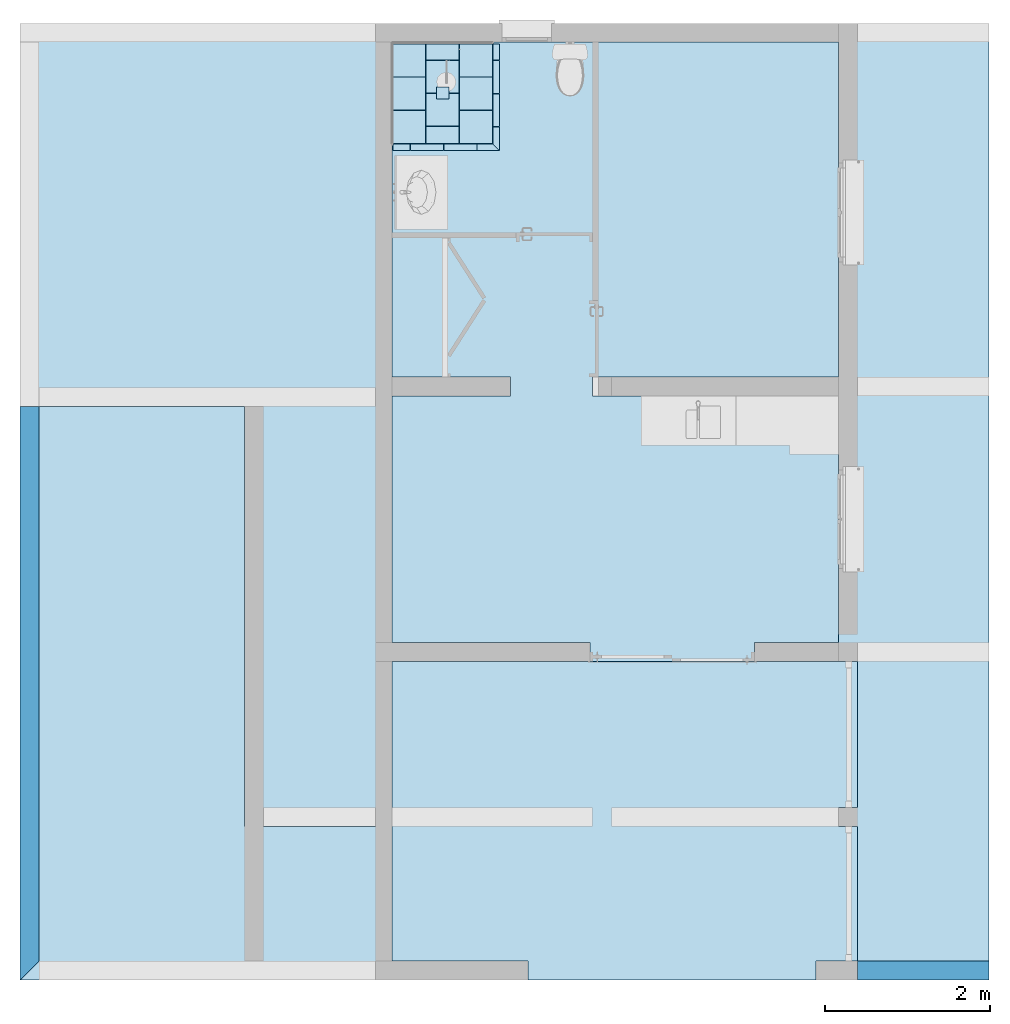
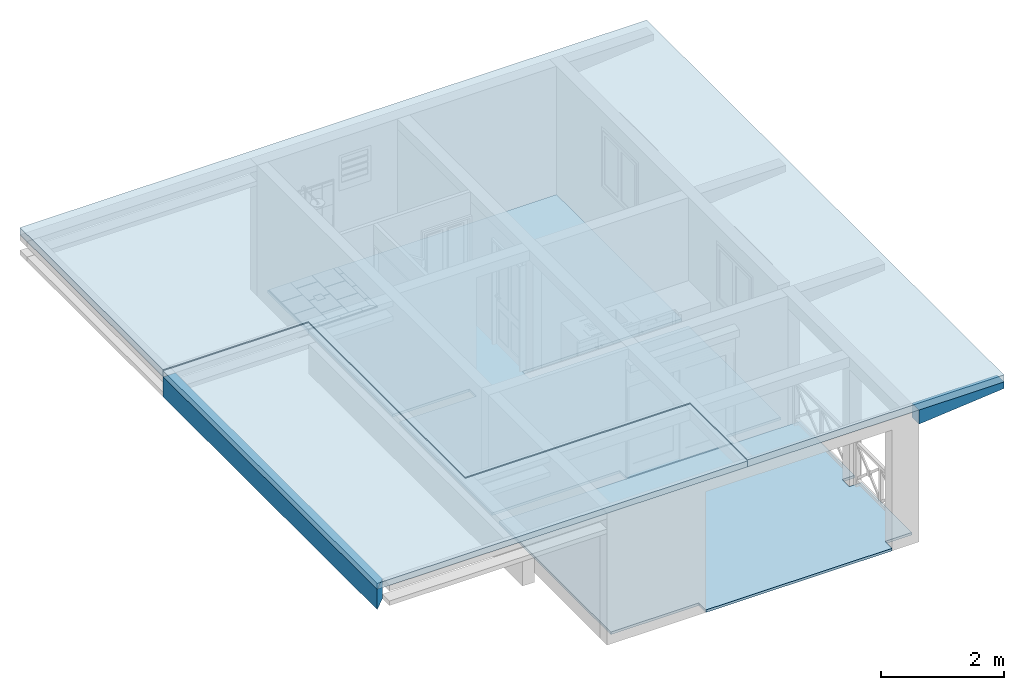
# One storey, part 1 of 13: 23 slabs, 2 walls.
"""IFC2X3 building model written with IfcOpenShell, lengths in metres."""

from ifc_helpers import new_model, entity, si_unit, converted_unit, derived_unit, money_unit, direction, frame, origin_with_axes, place, context, subcontext, project, spatial, polyline, outline, extrude, clip, halfspace, material, layer, layer_set, layer_usage, type_object, element, save


model = new_model("IFC2X3")

# Units and contexts
model_context = context("Model", 3, precision=1e-05, world=origin_with_axes(), true_north=direction((0.0, 1.0)))
body_context = subcontext(model_context, "Body", "Model", "MODEL_VIEW")
ifc_project = project(units=[si_unit("LENGTHUNIT", "METRE"), si_unit("AREAUNIT", "SQUARE_METRE"), si_unit("VOLUMEUNIT", "CUBIC_METRE"), converted_unit("PLANEANGLEUNIT", "DEGREE", entity("IfcPlaneAngleMeasure", 0.0174532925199), si_unit("PLANEANGLEUNIT", "RADIAN"), dimensions=[0, 0, 0, 0, 0, 0, 0]), si_unit("SOLIDANGLEUNIT", "STERADIAN"), money_unit("CHF"), converted_unit("TIMEUNIT", "Year", entity("IfcTimeMeasure", 31556926.0), si_unit("TIMEUNIT", "SECOND"), dimensions=[0, 0, 1, 0, 0, 0, 0]), si_unit("MASSUNIT", "GRAM", prefix="KILO"), si_unit("THERMODYNAMICTEMPERATUREUNIT", "DEGREE_CELSIUS"), si_unit("LUMINOUSINTENSITYUNIT", "LUMEN"), si_unit("ENERGYUNIT", "JOULE", prefix="MEGA"), derived_unit("THERMALCONDUCTANCEUNIT", [(si_unit("POWERUNIT", "WATT"), 1), (si_unit("LENGTHUNIT", "METRE"), -1), (si_unit("THERMODYNAMICTEMPERATUREUNIT", "KELVIN"), -1)]), derived_unit("SPECIFICHEATCAPACITYUNIT", [(si_unit("ENERGYUNIT", "JOULE"), 1), (si_unit("MASSUNIT", "GRAM", prefix="KILO"), -1), (si_unit("THERMODYNAMICTEMPERATUREUNIT", "KELVIN"), -1)]), derived_unit("MASSDENSITYUNIT", [(si_unit("MASSUNIT", "GRAM", prefix="KILO"), 1), (si_unit("VOLUMEUNIT", "CUBIC_METRE"), -1)])], contexts=[model_context])

# Site, building, storey
site_placement = place(None, origin_with_axes())
site = spatial("IfcSite", under=ifc_project, at=site_placement, Name="Site", CompositionType="ELEMENT")
building_placement = place(site_placement, origin_with_axes())
building = spatial("IfcBuilding", under=site, at=building_placement, Name="Bâtiment", CompositionType="ELEMENT")
storey_placement = place(building_placement, origin_with_axes())
storey = spatial("IfcBuildingStorey", under=building, at=storey_placement, Name="SOUS-SOL", CompositionType="ELEMENT", Elevation=0.0)

# Slabs
ifc_material_1 = material(Name="Hachure solide 2628782308")
ifc_layer_1 = layer(ifc_material_1, 0.12, ventilated="UNKNOWN")
ifc_layer_set_1 = layer_set([ifc_layer_1], Name="Hachure solide 2628782308 0.12")
ifc_layer_usage_1 = layer_usage(ifc_layer_set_1, "AXIS3", "NEGATIVE", 0.12)
slab_type_1 = type_object("IfcSlabType", Name="Hachure solide 2628782308 120", PredefinedType="FLOOR")
slab_1_placement = place(storey_placement, frame((84.7835190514, 14.1503410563, -0.07), z_axis=(0.0, 0.0, 1.0), x_axis=(1.0, 0.0, 0.0)))
element("IfcSlab", 1, at=slab_1_placement, inside=storey, type_object=slab_type_1, material=ifc_layer_usage_1, Name="Dalle-011", PredefinedType="FLOOR", context=body_context, shape_type="SweptSolid", body=[
    extrude(outline(polyline([(0.0, 0.0), (0.0, -6.97), (6.96, -6.97), (6.96, -5.10107445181), (2.73, -5.10107445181), (2.73, 0.0), (0.0, 0.0)])), frame((0.0, 0.0, -0.12), z_axis=(0.0, 0.0, 1.0), x_axis=(1.0, 0.0, 0.0)), (0.0, 0.0, 1.0), 0.12),
])
ifc_layer_2 = layer(ifc_material_1, 0.14, ventilated="UNKNOWN")
ifc_layer_set_2 = layer_set([ifc_layer_2], Name="Hachure solide 2628782308 0.14")
ifc_layer_usage_2 = layer_usage(ifc_layer_set_2, "AXIS3", "NEGATIVE", 0.14)
slab_type_2 = type_object("IfcSlabType", Name="Hachure solide 2628782308 140", PredefinedType="FLOOR")
slab_2_placement = place(storey_placement, frame((84.7835190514, 18.8103410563, -0.05), z_axis=(0.0, 0.0, 1.0), x_axis=(1.0, 0.0, 0.0)))
element("IfcSlab", 2, at=slab_2_placement, inside=storey, type_object=slab_type_2, material=ifc_layer_usage_2, Name="Dalle-010", PredefinedType="FLOOR", context=body_context, shape_type="SweptSolid", body=[
    extrude(outline(polyline([(0.0, 0.0), (0.0, -4.66), (2.73, -4.66), (2.73, -9.76107445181), (6.96, -9.76107445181), (6.96, -11.63), (11.78, -11.63), (11.78, 0.0), (0.0, 0.0)])), frame((0.0, 0.0, -0.14), z_axis=(0.0, 0.0, 1.0), x_axis=(1.0, 0.0, 0.0)), (0.0, 0.0, 1.0), 0.14),
])
ifc_material_2 = material(Name="Struct. - Chape")
ifc_layer_3 = layer(ifc_material_2, 0.05, ventilated="UNKNOWN")
ifc_layer_set_3 = layer_set([ifc_layer_3], Name="Struct. - Chape 0.05")
ifc_layer_usage_3 = layer_usage(ifc_layer_set_3, "AXIS3", "NEGATIVE", 0.05)
slab_type_3 = type_object("IfcSlabType", Name="Struct. - Chape 50", PredefinedType="FLOOR")
slab_3_placement = place(storey_placement, frame((89.3055190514, 11.0503410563, -2.76), z_axis=(0.0, 0.0, 1.0), x_axis=(1.0, 0.0, 0.0)))
element("IfcSlab", 3, at=slab_3_placement, inside=storey, type_object=slab_type_3, material=ifc_layer_usage_3, Name="Dalle-010", PredefinedType="FLOOR", context=body_context, shape_type="SweptSolid", body=[
    extrude(outline(polyline([(0.0, 0.0), (0.0, -3.64), (1.65601971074, -3.64), (1.65601971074, -3.87), (5.15601971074, -3.87), (5.15601971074, -3.64), (5.66, -3.64), (5.66, -2.00107445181), (5.43, -2.00107445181), (5.43, -1.77107445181), (5.66, -1.77107445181), (5.66, 0.0), (0.0, 0.0)])), frame((0.0, 0.0, -0.05), z_axis=(0.0, 0.0, 1.0), x_axis=(1.0, 0.0, 0.0)), (0.0, 0.0, 1.0), 0.05),
])
ifc_layer_usage_4 = layer_usage(ifc_layer_set_3, "AXIS3", "NEGATIVE", 0.05)
slab_4_placement = place(storey_placement, frame((89.3055190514, 11.2803410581, -2.74), z_axis=(0.0, 0.0, 1.0), x_axis=(1.0, 0.0, 0.0)))
element("IfcSlab", 4, at=slab_4_placement, inside=storey, type_object=slab_type_3, material=ifc_layer_usage_4, Name="Dalle-011", PredefinedType="FLOOR", context=body_context, shape_type="SweptSolid", body=[
    extrude(outline(polyline([(0.0, 0.0), (2.40601973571, 0.0), (2.40601973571, -0.230000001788), (4.40601968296, -0.230000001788), (4.40601968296, 0.0), (5.4299999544, 0.0), (5.4299999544, 3.00000003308), (2.438, 2.99999999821), (2.438, 3.22999999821), (5.4299999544, 3.23000003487), (5.4299999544, 7.29999999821), (0.0, 7.29999999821), (0.0, 3.23000003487), (1.438, 3.22999999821), (1.438, 2.99999999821), (0.0, 3.00000003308), (0.0, 0.0)])), frame((0.0, 0.0, -0.05), z_axis=(0.0, 0.0, 1.0), x_axis=(1.0, 0.0, 0.0)), (0.0, 0.0, 1.0), 0.05),
])
ifc_material_3 = material(Name="Sans Trame* 2635859640")
ifc_layer_4 = layer(ifc_material_3, 0.02, ventilated="UNKNOWN")
ifc_layer_set_4 = layer_set([ifc_layer_4], Name="Sans Trame* 2635859640 0.02")
ifc_layer_usage_5 = layer_usage(ifc_layer_set_4, "AXIS3", "NEGATIVE", 0.02)
slab_type_4 = type_object("IfcSlabType", Name="Sans Trame* 2635859640 20", PredefinedType="FLOOR")
slab_5_placement = place(storey_placement, frame((89.7155190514, 18.1603410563, -2.718), z_axis=(0.0, 0.0, 1.0), x_axis=(1.0, 0.0, 0.0)))
element("IfcSlab", 5, at=slab_5_placement, inside=storey, type_object=slab_type_4, material=ifc_layer_usage_5, Name="Dalle-019", PredefinedType="FLOOR", context=body_context, shape_type="SweptSolid", body=[
    extrude(outline(polyline([(0.0, 0.0), (0.0, 0.4), (-0.4, 0.4), (-0.4, 0.0), (0.0, 0.0)])), frame((0.0, 0.0, -0.02), z_axis=(0.0, 0.0, 1.0), x_axis=(1.0, 0.0, 0.0)), (0.0, 0.0, 1.0), 0.02),
])
ifc_layer_usage_6 = layer_usage(ifc_layer_set_4, "AXIS3", "NEGATIVE", 0.02)
slab_6_placement = place(storey_placement, frame((90.1255190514, 18.1603410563, -2.718), z_axis=(0.0, 0.0, 1.0), x_axis=(1.0, 0.0, 0.0)))
element("IfcSlab", 6, at=slab_6_placement, inside=storey, type_object=slab_type_4, material=ifc_layer_usage_6, Name="Dalle-019", PredefinedType="FLOOR", context=body_context, shape_type="SweptSolid", body=[
    extrude(outline(polyline([(0.0, 0.0), (0.4, 0.0), (0.4, 0.4), (0.0, 0.4), (0.0, 0.0)])), frame((0.0, 0.0, -0.02), z_axis=(0.0, 0.0, 1.0), x_axis=(1.0, 0.0, 0.0)), (0.0, 0.0, 1.0), 0.02),
])
ifc_layer_usage_7 = layer_usage(ifc_layer_set_4, "AXIS3", "NEGATIVE", 0.02)
slab_7_placement = place(storey_placement, frame((89.7155190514, 17.3503410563, -2.718), z_axis=(0.0, 0.0, 1.0), x_axis=(1.0, 0.0, 0.0)))
element("IfcSlab", 7, at=slab_7_placement, inside=storey, type_object=slab_type_4, material=ifc_layer_usage_7, Name="Dalle-019", PredefinedType="FLOOR", context=body_context, shape_type="SweptSolid", body=[
    extrude(outline(polyline([(0.0, 0.0), (0.0, 0.4), (-0.4, 0.4), (-0.4, 0.0), (0.0, 0.0)])), frame((0.0, 0.0, -0.02), z_axis=(0.0, 0.0, 1.0), x_axis=(1.0, 0.0, 0.0)), (0.0, 0.0, 1.0), 0.02),
])
ifc_layer_usage_8 = layer_usage(ifc_layer_set_4, "AXIS3", "NEGATIVE", 0.02)
slab_8_placement = place(storey_placement, frame((90.3361099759, 17.2653410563, -2.718), z_axis=(0.0, 0.0, 1.0), x_axis=(1.0, 0.0, 0.0)))
element("IfcSlab", 8, at=slab_8_placement, inside=storey, type_object=slab_type_4, material=ifc_layer_usage_8, Name="Dalle-019", PredefinedType="FLOOR", context=body_context, shape_type="SweptSolid", body=[
    extrude(outline(polyline([(0.0, 0.0), (0.0, 0.08), (-0.4, 0.08), (-0.4, 0.0), (0.0, 0.0)])), frame((0.0, 0.0, -0.02), z_axis=(0.0, 0.0, 1.0), x_axis=(1.0, 0.0, 0.0)), (0.0, 0.0, 1.0), 0.02),
])
ifc_layer_usage_9 = layer_usage(ifc_layer_set_4, "AXIS3", "NEGATIVE", 0.02)
slab_9_placement = place(storey_placement, frame((89.5261099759, 17.2653410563, -2.718), z_axis=(0.0, 0.0, 1.0), x_axis=(1.0, 0.0, 0.0)))
element("IfcSlab", 9, at=slab_9_placement, inside=storey, type_object=slab_type_4, material=ifc_layer_usage_9, Name="Dalle-019", PredefinedType="FLOOR", context=body_context, shape_type="SweptSolid", body=[
    extrude(outline(polyline([(0.0, 0.0), (0.0, 0.08), (-0.210590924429, 0.08), (-0.210590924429, 0.0), (0.0, 0.0)])), frame((0.0, 0.0, -0.02), z_axis=(0.0, 0.0, 1.0), x_axis=(1.0, 0.0, 0.0)), (0.0, 0.0, 1.0), 0.02),
])
ifc_layer_usage_10 = layer_usage(ifc_layer_set_4, "AXIS3", "NEGATIVE", 0.02)
slab_10_placement = place(storey_placement, frame((89.9955190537, 18.0328410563, -2.718), z_axis=(0.0, 0.0, 1.0), x_axis=(1.0, 0.0, 0.0)))
element("IfcSlab", 10, at=slab_10_placement, inside=storey, type_object=slab_type_4, material=ifc_layer_usage_10, Name="Dalle-019", PredefinedType="FLOOR", context=body_context, shape_type="SweptSolid", body=[
    extrude(outline(polyline([(0.0, 0.0), (-3.12923020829e-09, -0.07), (0.125, -0.07), (0.125, 0.325), (-0.275000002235, 0.325), (-0.275000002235, -0.07), (-0.149999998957, -0.07), (-0.15, 0.0), (0.0, 0.0)])), frame((0.0, 0.0, -0.02), z_axis=(0.0, 0.0, 1.0), x_axis=(1.0, 0.0, 0.0)), (0.0, 0.0, 1.0), 0.02),
])
ifc_layer_usage_11 = layer_usage(ifc_layer_set_4, "AXIS3", "NEGATIVE", 0.02)
slab_11_placement = place(storey_placement, frame((90.1205190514, 18.3628410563, -2.718), z_axis=(0.0, 0.0, 1.0), x_axis=(1.0, 0.0, 0.0)))
element("IfcSlab", 11, at=slab_11_placement, inside=storey, type_object=slab_type_4, material=ifc_layer_usage_11, Name="Dalle-019", PredefinedType="FLOOR", context=body_context, shape_type="SweptSolid", body=[
    extrude(outline(polyline([(0.0, 0.0), (0.0, 0.198), (-0.4, 0.1975), (-0.4, 0.0), (0.0, 0.0)])), frame((0.0, 0.0, -0.02), z_axis=(0.0, 0.0, 1.0), x_axis=(1.0, 0.0, 0.0)), (0.0, 0.0, 1.0), 0.02),
])
ifc_layer_usage_12 = layer_usage(ifc_layer_set_4, "AXIS3", "NEGATIVE", 0.02)
slab_12_placement = place(storey_placement, frame((89.7155190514, 17.7553410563, -2.718), z_axis=(0.0, 0.0, 1.0), x_axis=(1.0, 0.0, 0.0)))
element("IfcSlab", 12, at=slab_12_placement, inside=storey, type_object=slab_type_4, material=ifc_layer_usage_12, Name="Dalle-019", PredefinedType="FLOOR", context=body_context, shape_type="SweptSolid", body=[
    extrude(outline(polyline([(0.0, 0.0), (0.0, 0.4), (-0.4, 0.4), (-0.4, 0.0), (0.0, 0.0)])), frame((0.0, 0.0, -0.02), z_axis=(0.0, 0.0, 1.0), x_axis=(1.0, 0.0, 0.0)), (0.0, 0.0, 1.0), 0.02),
])
ifc_layer_usage_13 = layer_usage(ifc_layer_set_4, "AXIS3", "NEGATIVE", 0.02)
slab_13_placement = place(storey_placement, frame((90.1205190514, 17.3503410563, -2.718), z_axis=(0.0, 0.0, 1.0), x_axis=(1.0, 0.0, 0.0)))
element("IfcSlab", 13, at=slab_13_placement, inside=storey, type_object=slab_type_4, material=ifc_layer_usage_13, Name="Dalle-019", PredefinedType="FLOOR", context=body_context, shape_type="SweptSolid", body=[
    extrude(outline(polyline([(0.0, 0.0), (0.0, 0.208), (-0.4, 0.2075), (-0.4, 0.0), (0.0, 0.0)])), frame((0.0, 0.0, -0.02), z_axis=(0.0, 0.0, 1.0), x_axis=(1.0, 0.0, 0.0)), (0.0, 0.0, 1.0), 0.02),
])
ifc_layer_usage_14 = layer_usage(ifc_layer_set_4, "AXIS3", "NEGATIVE", 0.02)
slab_14_placement = place(storey_placement, frame((89.9311099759, 17.2653410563, -2.718), z_axis=(0.0, 0.0, 1.0), x_axis=(1.0, 0.0, 0.0)))
element("IfcSlab", 14, at=slab_14_placement, inside=storey, type_object=slab_type_4, material=ifc_layer_usage_14, Name="Dalle-019", PredefinedType="FLOOR", context=body_context, shape_type="SweptSolid", body=[
    extrude(outline(polyline([(0.0, 0.0), (0.0, 0.08), (-0.4, 0.08), (-0.4, 0.0), (0.0, 0.0)])), frame((0.0, 0.0, -0.02), z_axis=(0.0, 0.0, 1.0), x_axis=(1.0, 0.0, 0.0)), (0.0, 0.0, 1.0), 0.02),
])
ifc_layer_usage_15 = layer_usage(ifc_layer_set_4, "AXIS3", "NEGATIVE", 0.02)
slab_15_placement = place(storey_placement, frame((89.9955190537, 17.8878410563, -2.718), z_axis=(0.0, 0.0, 1.0), x_axis=(1.0, 0.0, 0.0)))
element("IfcSlab", 15, at=slab_15_placement, inside=storey, type_object=slab_type_4, material=ifc_layer_usage_15, Name="Dalle-019", PredefinedType="FLOOR", context=body_context, shape_type="SweptSolid", body=[
    extrude(outline(polyline([(0.0, 0.0), (-0.15, 0.0), (-0.149999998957, 0.07), (-0.275000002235, 0.07), (-0.275000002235, -0.325), (0.125, -0.325), (0.125, 0.07), (-3.12923020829e-09, 0.07), (0.0, 0.0)])), frame((0.0, 0.0, -0.02), z_axis=(0.0, 0.0, 1.0), x_axis=(1.0, 0.0, 0.0)), (0.0, 0.0, 1.0), 0.02),
])
ifc_layer_usage_16 = layer_usage(ifc_layer_set_4, "AXIS3", "NEGATIVE", 0.02)
slab_16_placement = place(storey_placement, frame((90.6105190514, 17.2653410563, -2.718), z_axis=(0.0, 0.0, 1.0), x_axis=(1.0, 0.0, 0.0)))
element("IfcSlab", 16, at=slab_16_placement, inside=storey, type_object=slab_type_4, material=ifc_layer_usage_16, Name="Dalle-019", PredefinedType="FLOOR", context=body_context, shape_type="SweptSolid", body=[
    extrude(outline(polyline([(0.0, 0.0), (-0.08, 0.08), (-0.269409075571, 0.08), (-0.269409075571, 0.0), (0.0, 0.0)])), frame((0.0, 0.0, -0.02), z_axis=(0.0, 0.0, 1.0), x_axis=(1.0, 0.0, 0.0)), (0.0, 0.0, 1.0), 0.02),
])
ifc_layer_usage_17 = layer_usage(ifc_layer_set_4, "AXIS3", "NEGATIVE", 0.02)
slab_17_placement = place(storey_placement, frame((90.6105190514, 17.9578410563, -2.718), z_axis=(0.0, 0.0, 1.0), x_axis=(1.0, 0.0, 0.0)))
element("IfcSlab", 17, at=slab_17_placement, inside=storey, type_object=slab_type_4, material=ifc_layer_usage_17, Name="Dalle-019", PredefinedType="FLOOR", context=body_context, shape_type="SweptSolid", body=[
    extrude(outline(polyline([(0.0, 0.0), (0.0, 0.4), (-0.0800000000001, 0.4), (-0.08, 0.0), (0.0, 0.0)])), frame((0.0, 0.0, -0.02), z_axis=(0.0, 0.0, 1.0), x_axis=(1.0, 0.0, 0.0)), (0.0, 0.0, 1.0), 0.02),
])
ifc_layer_usage_18 = layer_usage(ifc_layer_set_4, "AXIS3", "NEGATIVE", 0.02)
slab_18_placement = place(storey_placement, frame((90.6105190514, 18.3628410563, -2.718), z_axis=(0.0, 0.0, 1.0), x_axis=(1.0, 0.0, 0.0)))
element("IfcSlab", 18, at=slab_18_placement, inside=storey, type_object=slab_type_4, material=ifc_layer_usage_18, Name="Dalle-019", PredefinedType="FLOOR", context=body_context, shape_type="SweptSolid", body=[
    extrude(outline(polyline([(0.0, 0.0), (0.0, 0.1975), (-0.08, 0.19750249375), (-0.08, 0.0), (0.0, 0.0)])), frame((0.0, 0.0, -0.02), z_axis=(0.0, 0.0, 1.0), x_axis=(1.0, 0.0, 0.0)), (0.0, 0.0, 1.0), 0.02),
])
ifc_layer_usage_19 = layer_usage(ifc_layer_set_4, "AXIS3", "NEGATIVE", 0.02)
slab_19_placement = place(storey_placement, frame((90.6105190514, 17.5528410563, -2.718), z_axis=(0.0, 0.0, 1.0), x_axis=(1.0, 0.0, 0.0)))
element("IfcSlab", 19, at=slab_19_placement, inside=storey, type_object=slab_type_4, material=ifc_layer_usage_19, Name="Dalle-019", PredefinedType="FLOOR", context=body_context, shape_type="SweptSolid", body=[
    extrude(outline(polyline([(0.0, 0.0), (0.0, 0.4), (-0.08, 0.4), (-0.08, 0.0), (0.0, 0.0)])), frame((0.0, 0.0, -0.02), z_axis=(0.0, 0.0, 1.0), x_axis=(1.0, 0.0, 0.0)), (0.0, 0.0, 1.0), 0.02),
])
ifc_layer_usage_20 = layer_usage(ifc_layer_set_4, "AXIS3", "NEGATIVE", 0.02)
slab_20_placement = place(storey_placement, frame((90.6105190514, 17.2653410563, -2.718), z_axis=(0.0, 0.0, 1.0), x_axis=(1.0, 0.0, 0.0)))
element("IfcSlab", 20, at=slab_20_placement, inside=storey, type_object=slab_type_4, material=ifc_layer_usage_20, Name="Dalle-019", PredefinedType="FLOOR", context=body_context, shape_type="SweptSolid", body=[
    extrude(outline(polyline([(0.0, 0.0), (0.0, 0.2825), (-0.08, 0.2825), (-0.08, 0.08), (0.0, 0.0)])), frame((0.0, 0.0, -0.02), z_axis=(0.0, 0.0, 1.0), x_axis=(1.0, 0.0, 0.0)), (0.0, 0.0, 1.0), 0.02),
])
ifc_layer_usage_21 = layer_usage(ifc_layer_set_4, "AXIS3", "NEGATIVE", 0.02)
slab_21_placement = place(storey_placement, frame((90.1255190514, 17.3503410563, -2.718), z_axis=(0.0, 0.0, 1.0), x_axis=(1.0, 0.0, 0.0)))
element("IfcSlab", 21, at=slab_21_placement, inside=storey, type_object=slab_type_4, material=ifc_layer_usage_21, Name="Dalle-019", PredefinedType="FLOOR", context=body_context, shape_type="SweptSolid", body=[
    extrude(outline(polyline([(0.0, 0.0), (0.4, 0.0), (0.4, 0.4), (0.0, 0.4), (0.0, 0.0)])), frame((0.0, 0.0, -0.02), z_axis=(0.0, 0.0, 1.0), x_axis=(1.0, 0.0, 0.0)), (0.0, 0.0, 1.0), 0.02),
])
ifc_layer_usage_22 = layer_usage(ifc_layer_set_4, "AXIS3", "NEGATIVE", 0.02)
slab_22_placement = place(storey_placement, frame((89.9955190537, 17.8878410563, -2.718), z_axis=(0.0, 0.0, 1.0), x_axis=(1.0, 0.0, 0.0)))
element("IfcSlab", 22, at=slab_22_placement, inside=storey, type_object=slab_type_4, material=ifc_layer_usage_22, Name="Dalle-019", PredefinedType="FLOOR", context=body_context, shape_type="SweptSolid", body=[
    extrude(outline(polyline([(0.0, 0.0), (0.0, 0.145), (-0.15, 0.145), (-0.15, 0.0), (0.0, 0.0)])), frame((0.0, 0.0, -0.02), z_axis=(0.0, 0.0, 1.0), x_axis=(1.0, 0.0, 0.0)), (0.0, 0.0, 1.0), 0.02),
])
ifc_layer_usage_23 = layer_usage(ifc_layer_set_4, "AXIS3", "NEGATIVE", 0.02)
slab_23_placement = place(storey_placement, frame((90.1255190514, 17.7553410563, -2.718), z_axis=(0.0, 0.0, 1.0), x_axis=(1.0, 0.0, 0.0)))
element("IfcSlab", 23, at=slab_23_placement, inside=storey, type_object=slab_type_4, material=ifc_layer_usage_23, Name="Dalle-019", PredefinedType="FLOOR", context=body_context, shape_type="SweptSolid", body=[
    extrude(outline(polyline([(0.0, 0.0), (0.4, 0.0), (0.4, 0.4), (0.0, 0.4), (0.0, 0.0)])), frame((0.0, 0.0, -0.02), z_axis=(0.0, 0.0, 1.0), x_axis=(1.0, 0.0, 0.0)), (0.0, 0.0, 1.0), 0.02),
])

# Walls
ifc_layer_5 = layer(ifc_material_1, 0.23, ventilated="UNKNOWN")
ifc_layer_set_5 = layer_set([ifc_layer_5], Name="Hachure solide 2628782308 0.23")
ifc_layer_usage_24 = layer_usage(ifc_layer_set_5, "AXIS2", "POSITIVE", 0.0)
wall_type = type_object("IfcWallType", Name="Hachure solide 2628782308 230", PredefinedType="NOTDEFINED")
wall_1_placement = place(storey_placement, frame((94.9655190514, 7.18034105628, -0.49), z_axis=(0.0, 0.0, 1.0), x_axis=(1.0, 0.0, 0.0)))
element("IfcWallStandardCase", 24, at=wall_1_placement, inside=storey, type_object=wall_type, material=ifc_layer_usage_24, Name="MurExt-05", context=body_context, shape_type="Clipping", body=[
    clip(extrude(outline(polyline([(0.0, 0.0), (1.598, 0.0), (1.598, 0.23), (0.0, 0.23), (0.0, 0.0)])), origin_with_axes(), (0.0, 0.0, 1.0), 0.3), halfspace(frame((-0.00186826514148, 0.0, 0.0199125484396), z_axis=(-0.0934132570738, 0.0, 0.995627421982), x_axis=(0.0, -1.0, 0.0)), True)),
])
ifc_layer_usage_25 = layer_usage(ifc_layer_set_5, "AXIS2", "POSITIVE", 0.0)
wall_2_placement = place(storey_placement, frame((84.7835190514, 14.1509215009, -0.59), z_axis=(0.0, 0.0, 1.0), x_axis=(0.0, -1.0, 0.0)))
element("IfcWallStandardCase", 25, at=wall_2_placement, inside=storey, type_object=wall_type, material=ifc_layer_usage_25, Name="MurExt-018", context=body_context, shape_type="SweptSolid", body=[
    extrude(outline(polyline([(0.0, 0.0), (6.97058044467, 0.0), (6.74058044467, 0.23), (0.0, 0.23), (0.0, 0.0)])), origin_with_axes(), (0.0, 0.0, 1.0), 0.4),
])

save(model, "model.ifc")
